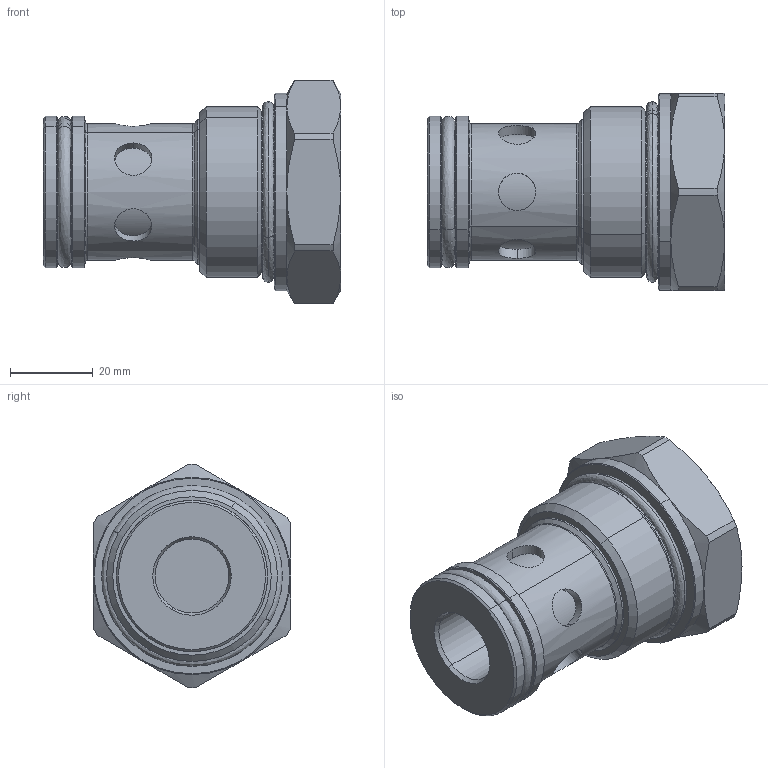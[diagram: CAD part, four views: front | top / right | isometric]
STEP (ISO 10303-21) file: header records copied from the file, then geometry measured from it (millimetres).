
FILE_DESCRIPTION (( 'STEP AP203' ), '1' );
FILE_NAME ('Parte4^CVC0.S20.AE.000_3D.STEP', '2015-05-09T05:07:43', ( '' ), ( '' ), 'SwSTEP 2.0', 'SolidWorks 2010', '' );
FILE_SCHEMA (( 'CONFIG_CONTROL_DESIGN' ));
Length unit declared in the file: millimetre
Products named in the file (1): Parte4^CVC0.S20.AE.000_3D
Bounding box: 71.8 x 47.6 x 54 mm (x, y, z)
Volume: 83770.9 mm3; surface area: 16625.3 mm2
Topology: 3 solids, 3 shells, 107 faces, 222 edges, 126 vertices
Faces by surface type: cylinder 42, cone 34, torus 12, plane 11, bspline 8
Entity records: 3843 total; most frequent: CARTESIAN_POINT 1580, DIRECTION 468, ORIENTED_EDGE 444, EDGE_CURVE 222, AXIS2_PLACEMENT_3D 202, VERTEX_POINT 126, EDGE_LOOP 116, ADVANCED_FACE 107
